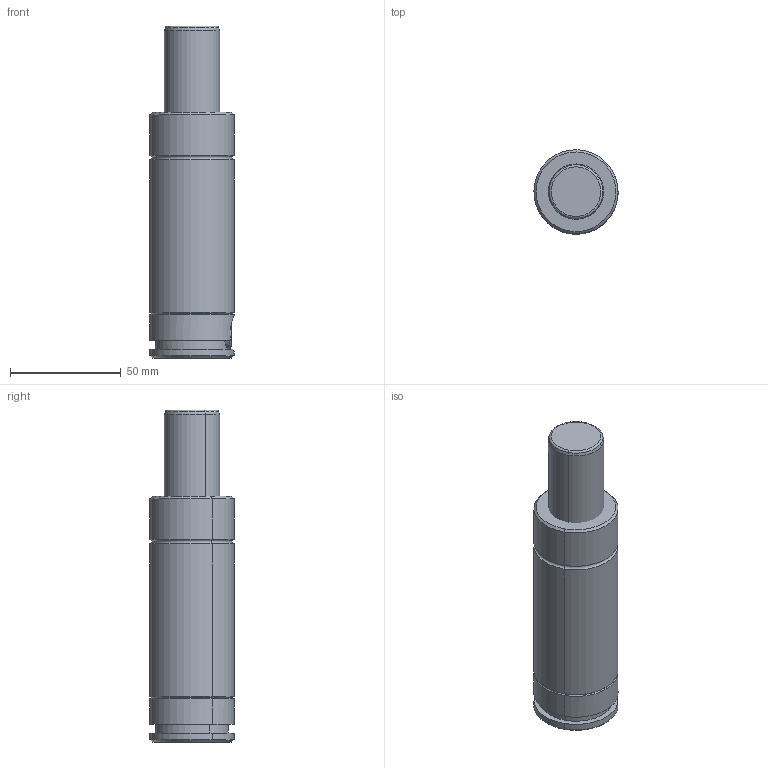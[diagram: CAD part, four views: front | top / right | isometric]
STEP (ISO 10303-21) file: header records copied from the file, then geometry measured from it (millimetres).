
FILE_DESCRIPTION(('CATIA V5 STEP Exchange'),'2;1');
FILE_NAME('W:\CATALOGO GENERAL 2018\FICHEROS CAD\003-TPH\TPH 850C\TPH 850x38C.stp','2017-10-30T10:33:41+00:00',('none'),('none'),'CATIA Version 5 Release 17 (IN-10)','CATIA V5 STEP AP203','none');
FILE_SCHEMA(('CONFIG_CONTROL_DESIGN'));
Length unit declared in the file: millimetre
Products named in the file (1): TPH 850x38C
Assembly tree (4 placements, depth 2):
  TPH 850x38C
    #56
    #969
    #1402
    #1744
Bounding box: 37.99 x 37.99 x 150 mm (x, y, z)
Volume: 169047.8 mm3; surface area: 28211.6 mm2
Topology: 4 solids, 4 shells, 139 faces, 294 edges, 176 vertices
Faces by surface type: cone 44, torus 36, cylinder 33, plane 26
Entity records: 3483 total; most frequent: CARTESIAN_POINT 646, ORIENTED_EDGE 572, DIRECTION 478, AXIS2_PLACEMENT_3D 287, EDGE_CURVE 286, CIRCLE 188, VERTEX_POINT 164, EDGE_LOOP 148
